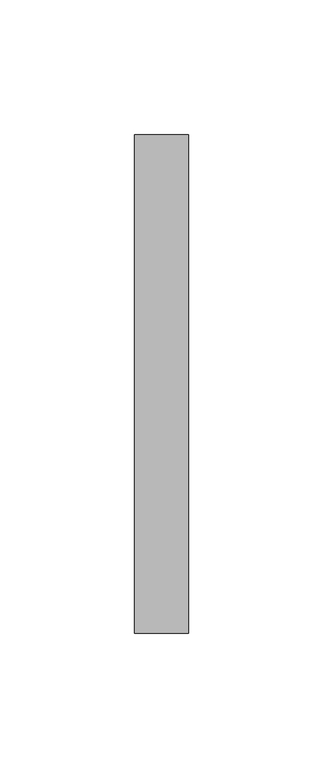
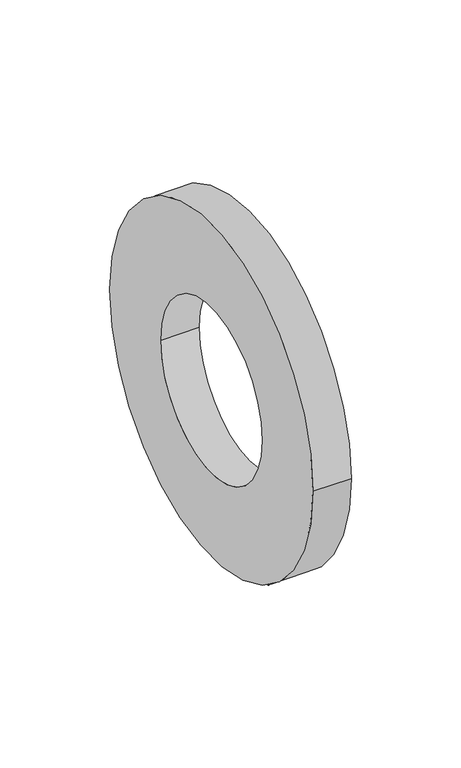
"""IFC4 building model written with IfcOpenShell, lengths in millimetres: pipe fitting geometry, NIRON accesorio brida : Estándar."""

from ifc_helpers import new_model, si_unit, point, frame, origin, origin_2d, place, context, project, spatial, circle_curve, trimmed, segment, composite_curve, outline, extrude, source, transform, mapped, element, save


def pipe_fitting_1aa054d1(model_context):
    return source(origin(), model_context, "Body", "SweptSolid", [
        extrude(outline(composite_curve([segment(trimmed(circle_curve(origin_2d(), 92.5), [point((92.5, 0.0))], [point((-92.5, 0.0))], False, "CARTESIAN"), True, "CONTINUOUS"), segment(trimmed(circle_curve(origin_2d(), 92.5), [point((-92.5, 0.0))], [point((92.5, 0.0))], False, "CARTESIAN"), True, "CONTINUOUS")], self_intersect=False), holes=[composite_curve([segment(trimmed(circle_curve(origin_2d(), 46.0), [point((46.0, 0.0))], [point((-46.0, 0.0))], True, "CARTESIAN"), True, "CONTINUOUS"), segment(trimmed(circle_curve(origin_2d(), 46.0), [point((-46.0, 0.0))], [point((46.0, 0.0))], True, "CARTESIAN"), True, "CONTINUOUS")], self_intersect=False)]), frame((2.4830127, 0.0, 0.0), z_axis=(1.0, 0.0, 0.0), x_axis=(0.0, 1.0, 0.0)), (0.0, 0.0, 1.0), 20.0),
    ])


if __name__ == "__main__":
    model = new_model("IFC4")
    model_context = context("Model", 3, world=origin())
    ifc_project = project(units=[si_unit("LENGTHUNIT", "METRE", prefix="MILLI")], contexts=[model_context])
    site = spatial("IfcSite", under=ifc_project)
    building = spatial("IfcBuilding", under=site)
    placement = place(None, origin())
    pipe_fitting_shape = pipe_fitting_1aa054d1(model_context)
    element("IfcPipeFitting", 1, ObjectType="NIRON accesorio brida : Estándar", at=placement, inside=building, context=model_context, shape_type="MappedRepresentation", body=[
        mapped(pipe_fitting_shape, transform((0.0, 0.0, 0.0), x_axis=(1.0, 0.0, 0.0), y_axis=(0.0, 1.0, 0.0), z_axis=(0.0, 0.0, 1.0))),
    ])
    save(model, "model.ifc")
